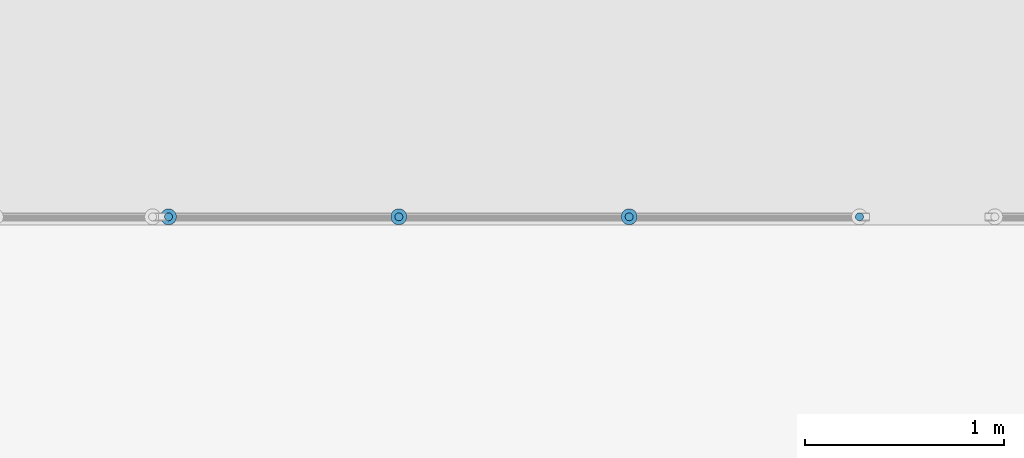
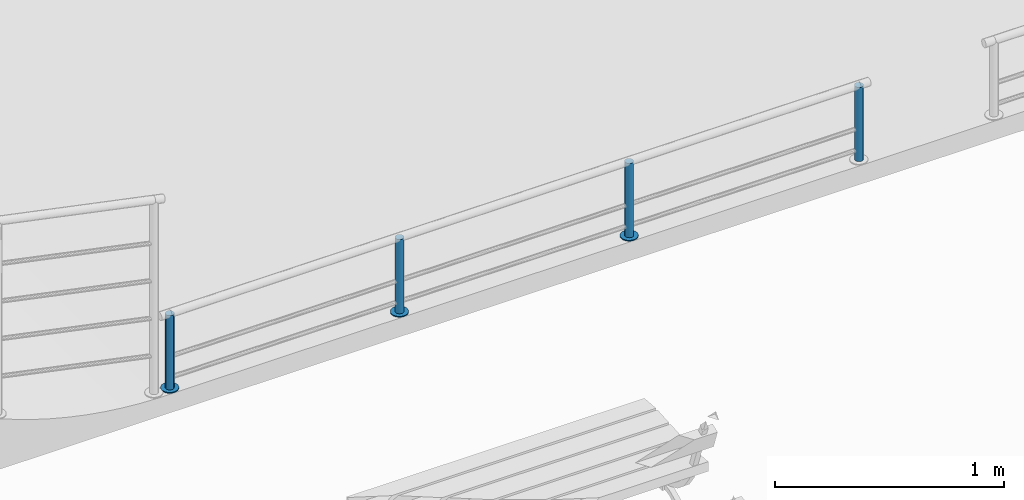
# One storey, part 94 of 237: 7 building element parts, 1 element without a shape of its own.
"""IFC2X3 building model written with IfcOpenShell, lengths in millimetres."""

from ifc_helpers import new_model, entity, si_unit, converted_unit, derived_unit, money_unit, direction, frame, origin_with_axes, place, context, subcontext, project, spatial, faceted_brep, material, type_object, element, aggregate, save


model = new_model("IFC2X3")

# Units and contexts
model_context = context("Model", 3, precision=0.01, world=origin_with_axes(), true_north=direction((0.0, 1.0)))
body_context = subcontext(model_context, "Body", "Model", "MODEL_VIEW")
ifc_project = project(units=[si_unit("LENGTHUNIT", "METRE", prefix="MILLI"), si_unit("AREAUNIT", "SQUARE_METRE"), si_unit("VOLUMEUNIT", "CUBIC_METRE"), converted_unit("PLANEANGLEUNIT", "DEGREE", entity("IfcPlaneAngleMeasure", 0.0174532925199), si_unit("PLANEANGLEUNIT", "RADIAN"), dimensions=[0, 0, 0, 0, 0, 0, 0]), money_unit("USD"), converted_unit("TIMEUNIT", "Year", entity("IfcTimeMeasure", 31556926.0), si_unit("TIMEUNIT", "SECOND"), dimensions=[0, 0, 1, 0, 0, 0, 0]), si_unit("MASSUNIT", "GRAM", prefix="KILO"), si_unit("THERMODYNAMICTEMPERATUREUNIT", "DEGREE_CELSIUS"), si_unit("LUMINOUSINTENSITYUNIT", "LUMEN"), si_unit("ENERGYUNIT", "JOULE", prefix="MEGA"), derived_unit("THERMALCONDUCTANCEUNIT", [(si_unit("POWERUNIT", "WATT"), 1), (si_unit("LENGTHUNIT", "METRE"), -1), (si_unit("THERMODYNAMICTEMPERATUREUNIT", "KELVIN"), -1)]), derived_unit("SPECIFICHEATCAPACITYUNIT", [(si_unit("ENERGYUNIT", "JOULE"), 1), (si_unit("MASSUNIT", "GRAM", prefix="KILO"), -1), (si_unit("THERMODYNAMICTEMPERATUREUNIT", "KELVIN"), -1)]), derived_unit("MASSDENSITYUNIT", [(si_unit("MASSUNIT", "GRAM", prefix="KILO"), 1), (si_unit("VOLUMEUNIT", "CUBIC_METRE"), -1)])], contexts=[model_context])

# Site, building, storey
site_placement = place(None, origin_with_axes())
site = spatial("IfcSite", under=ifc_project, at=site_placement, Name="Local", CompositionType="ELEMENT")
building_placement = place(site_placement, origin_with_axes())
building = spatial("IfcBuilding", under=site, at=building_placement, Name="Construção", CompositionType="ELEMENT")
storey_placement = place(building_placement, origin_with_axes())
storey = spatial("IfcBuildingStorey", under=building, at=storey_placement, Name="Pavimento Térreo", CompositionType="ELEMENT", Elevation=0.0)

# Railing, building element parts
railing_type = type_object("IfcRailingType", Name="Tipo de Guarda-Corpo", PredefinedType="NOTDEFINED")
railing_placement = place(storey_placement, frame((53912.4440926, 28006.4497128, -1887.10818411), z_axis=(0.0, 0.0, 1.0), x_axis=(1.0, 0.0, 0.0)))
railing = element("IfcRailing", 1, at=railing_placement, inside=storey, type_object=railing_type, Name="Guarda-Corpo - 002", PredefinedType="NOTDEFINED")
ifc_material_1 = material(Name="Aço - Inoxidável")
building_element_part_1_placement = place(railing_placement, origin_with_axes())
building_element_part_1 = element("IfcBuildingElementPart", 2, at=building_element_part_1_placement, material=ifc_material_1, Name="Aço - Inoxidável", context=body_context, shape_type="Brep", body=[
    faceted_brep([(36.5270364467, 58.7903860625, 635.0), (40.0, 58.4865411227, 635.0), (40.0, 58.4865411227, 1030.0), (36.5270364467, 58.7903860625, 1030.0), (43.4729635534, 58.7903860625, 635.0), (33.1595971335, 59.692688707, 635.0), (30.0, 61.166033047, 635.0), (27.1442478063, 63.1656522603, 635.0), (24.6791111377, 65.630788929, 635.0), (22.6794919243, 68.4865411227, 635.0), (21.2061475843, 71.6461382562, 635.0), (20.3038449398, 75.0135775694, 635.0), (20.0, 78.4865411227, 635.0), (20.3038449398, 81.9595046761, 635.0), (21.2061475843, 85.3269439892, 635.0), (22.6794919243, 88.4865411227, 635.0), (24.6791111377, 91.3422933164, 635.0), (27.1442478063, 93.8074299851, 635.0), (30.0, 95.8070491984, 635.0), (33.1595971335, 97.2803935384, 635.0), (36.5270364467, 98.182696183, 635.0), (40.0, 98.4865411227, 635.0), (43.4729635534, 98.182696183, 635.0), (46.8404028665, 97.2803935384, 635.0), (50.0, 95.8070491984, 635.0), (52.8557521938, 93.8074299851, 635.0), (55.3208888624, 91.3422933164, 635.0), (57.3205080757, 88.4865411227, 635.0), (58.7938524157, 85.3269439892, 635.0), (59.6961550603, 81.9595046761, 635.0), (60.0, 78.4865411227, 635.0), (59.6961550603, 75.0135775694, 635.0), (58.7938524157, 71.6461382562, 635.0), (57.3205080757, 68.4865411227, 635.0), (55.3208888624, 65.630788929, 635.0), (52.8557521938, 63.1656522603, 635.0), (50.0, 61.166033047, 635.0), (46.8404028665, 59.692688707, 635.0), (43.4729635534, 58.7903860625, 1030.0), (20.3038449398, 81.9595046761, 1030.0), (20.0, 78.4865411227, 1030.0), (20.3038449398, 75.0135775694, 1030.0), (21.2061475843, 71.6461382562, 1030.0), (22.6794919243, 68.4865411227, 1030.0), (24.6791111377, 65.630788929, 1030.0), (27.1442478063, 63.1656522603, 1030.0), (30.0, 61.166033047, 1030.0), (33.1595971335, 59.692688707, 1030.0), (46.8404028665, 59.692688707, 1030.0), (50.0, 61.166033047, 1030.0), (52.8557521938, 63.1656522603, 1030.0), (55.3208888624, 65.630788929, 1030.0), (57.3205080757, 68.4865411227, 1030.0), (58.7938524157, 71.6461382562, 1030.0), (59.6961550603, 75.0135775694, 1030.0), (60.0, 78.4865411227, 1030.0), (59.6961550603, 81.9595046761, 1030.0), (58.7938524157, 85.3269439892, 1030.0), (57.3205080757, 88.4865411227, 1030.0), (55.3208888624, 91.3422933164, 1030.0), (52.8557521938, 93.8074299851, 1030.0), (50.0, 95.8070491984, 1030.0), (46.8404028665, 97.2803935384, 1030.0), (43.4729635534, 98.182696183, 1030.0), (40.0, 98.4865411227, 1030.0), (36.5270364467, 98.182696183, 1030.0), (33.1595971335, 97.2803935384, 1030.0), (30.0, 95.8070491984, 1030.0), (27.1442478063, 93.8074299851, 1030.0), (24.6791111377, 91.3422933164, 1030.0), (22.6794919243, 88.4865411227, 1030.0), (21.2061475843, 85.3269439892, 1030.0)], [[[0, 1, 2, 3]], [[4, 1, 0, 5, 6, 7, 8, 9, 10, 11, 12, 13, 14, 15, 16, 17, 18, 19, 20, 21, 22, 23, 24, 25, 26, 27, 28, 29, 30, 31, 32, 33, 34, 35, 36, 37]], [[1, 4, 38, 2]], [[39, 40, 41, 42, 43, 44, 45, 46, 47, 3, 2, 38, 48, 49, 50, 51, 52, 53, 54, 55, 56, 57, 58, 59, 60, 61, 62, 63, 64, 65, 66, 67, 68, 69, 70, 71]], [[5, 0, 3, 47]], [[6, 5, 47, 46]], [[7, 6, 46, 45]], [[8, 7, 45, 44]], [[9, 8, 44, 43]], [[10, 9, 43, 42]], [[11, 10, 42, 41]], [[12, 11, 41, 40]], [[13, 12, 40, 39]], [[14, 13, 39, 71]], [[15, 14, 71, 70]], [[16, 15, 70, 69]], [[17, 16, 69, 68]], [[18, 17, 68, 67]], [[19, 18, 67, 66]], [[20, 19, 66, 65]], [[21, 20, 65, 64]], [[22, 21, 64, 63]], [[23, 22, 63, 62]], [[24, 23, 62, 61]], [[25, 24, 61, 60]], [[26, 25, 60, 59]], [[27, 26, 59, 58]], [[28, 27, 58, 57]], [[29, 28, 57, 56]], [[30, 29, 56, 55]], [[31, 30, 55, 54]], [[32, 31, 54, 53]], [[33, 32, 53, 52]], [[34, 33, 52, 51]], [[35, 34, 51, 50]], [[36, 35, 50, 49]], [[37, 36, 49, 48]], [[4, 37, 48, 38]]]),
])
ifc_material_2 = material(Name="Alumínio")
building_element_part_2_placement = place(railing_placement, origin_with_axes())
building_element_part_2 = element("IfcBuildingElementPart", 3, at=building_element_part_2_placement, material=ifc_material_2, Name="Alumínio", context=body_context, shape_type="Brep", body=[
    faceted_brep([(80.0, 78.4865411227, 630.0), (79.3923101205, 85.4324682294, 630.0), (79.3923101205, 85.4324682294, 635.0), (80.0, 78.4865411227, 635.0), (79.3923101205, 71.540614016, 630.0), (77.5877048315, 64.8057353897, 630.0), (74.6410161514, 58.4865411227, 630.0), (70.6417777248, 52.7750367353, 630.0), (65.7115043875, 47.844763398, 630.0), (60.0, 43.8455249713, 630.0), (53.6808057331, 40.8988362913, 630.0), (46.9459271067, 39.0942310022, 630.0), (40.0, 38.4865411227, 630.0), (33.0540728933, 39.0942310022, 630.0), (26.319194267, 40.8988362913, 630.0), (20.0, 43.8455249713, 630.0), (14.2884956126, 47.844763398, 630.0), (9.35822227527, 52.7750367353, 630.0), (5.35898384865, 58.4865411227, 630.0), (2.41229516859, 64.8057353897, 630.0), (0.607689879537, 71.540614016, 630.0), (0.0, 78.4865411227, 630.0), (0.607689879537, 85.4324682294, 630.0), (2.41229516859, 92.1673468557, 630.0), (5.35898384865, 98.4865411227, 630.0), (9.35822227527, 104.19804551, 630.0), (14.2884956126, 109.128318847, 630.0), (20.0, 113.127557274, 630.0), (26.319194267, 116.074245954, 630.0), (33.0540728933, 117.878851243, 630.0), (40.0, 118.486541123, 630.0), (46.9459271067, 117.878851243, 630.0), (53.6808057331, 116.074245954, 630.0), (60.0, 113.127557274, 630.0), (65.7115043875, 109.128318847, 630.0), (70.6417777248, 104.19804551, 630.0), (74.6410161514, 98.4865411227, 630.0), (77.5877048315, 92.1673468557, 630.0), (77.5877048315, 92.1673468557, 635.0), (74.6410161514, 98.4865411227, 635.0), (70.6417777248, 104.19804551, 635.0), (65.7115043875, 109.128318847, 635.0), (60.0, 113.127557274, 635.0), (53.6808057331, 116.074245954, 635.0), (46.9459271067, 117.878851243, 635.0), (40.0, 118.486541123, 635.0), (33.0540728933, 117.878851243, 635.0), (26.319194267, 116.074245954, 635.0), (20.0, 113.127557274, 635.0), (14.2884956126, 109.128318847, 635.0), (9.35822227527, 104.19804551, 635.0), (5.35898384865, 98.4865411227, 635.0), (2.41229516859, 92.1673468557, 635.0), (0.607689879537, 85.4324682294, 635.0), (0.0, 78.4865411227, 635.0), (0.607689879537, 71.540614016, 635.0), (2.41229516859, 64.8057353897, 635.0), (5.35898384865, 58.4865411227, 635.0), (9.35822227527, 52.7750367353, 635.0), (14.2884956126, 47.844763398, 635.0), (20.0, 43.8455249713, 635.0), (26.319194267, 40.8988362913, 635.0), (33.0540728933, 39.0942310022, 635.0), (40.0, 38.4865411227, 635.0), (46.9459271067, 39.0942310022, 635.0), (53.6808057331, 40.8988362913, 635.0), (60.0, 43.8455249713, 635.0), (65.7115043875, 47.844763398, 635.0), (70.6417777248, 52.7750367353, 635.0), (74.6410161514, 58.4865411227, 635.0), (77.5877048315, 64.8057353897, 635.0), (79.3923101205, 71.540614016, 635.0)], [[[0, 1, 2, 3]], [[0, 4, 5, 6, 7, 8, 9, 10, 11, 12, 13, 14, 15, 16, 17, 18, 19, 20, 21, 22, 23, 24, 25, 26, 27, 28, 29, 30, 31, 32, 33, 34, 35, 36, 37, 1]], [[1, 37, 38, 2]], [[3, 2, 38, 39, 40, 41, 42, 43, 44, 45, 46, 47, 48, 49, 50, 51, 52, 53, 54, 55, 56, 57, 58, 59, 60, 61, 62, 63, 64, 65, 66, 67, 68, 69, 70, 71]], [[4, 0, 3, 71]], [[5, 4, 71, 70]], [[6, 5, 70, 69]], [[7, 6, 69, 68]], [[8, 7, 68, 67]], [[9, 8, 67, 66]], [[10, 9, 66, 65]], [[11, 10, 65, 64]], [[12, 11, 64, 63]], [[13, 12, 63, 62]], [[14, 13, 62, 61]], [[15, 14, 61, 60]], [[16, 15, 60, 59]], [[17, 16, 59, 58]], [[18, 17, 58, 57]], [[19, 18, 57, 56]], [[20, 19, 56, 55]], [[21, 20, 55, 54]], [[22, 21, 54, 53]], [[23, 22, 53, 52]], [[24, 23, 52, 51]], [[25, 24, 51, 50]], [[26, 25, 50, 49]], [[27, 26, 49, 48]], [[28, 27, 48, 47]], [[29, 28, 47, 46]], [[30, 29, 46, 45]], [[31, 30, 45, 44]], [[32, 31, 44, 43]], [[33, 32, 43, 42]], [[34, 33, 42, 41]], [[35, 34, 41, 40]], [[36, 35, 40, 39]], [[37, 36, 39, 38]]]),
])
building_element_part_3_placement = place(railing_placement, origin_with_axes())
building_element_part_3 = element("IfcBuildingElementPart", 4, at=building_element_part_3_placement, material=ifc_material_1, Name="Aço - Inoxidável", context=body_context, shape_type="Brep", body=[
    faceted_brep([(3506.52703645, 58.7903860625, 634.999988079), (3510.0, 58.4865411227, 634.999988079), (3510.0, 58.4865411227, 1029.99998808), (3506.52703645, 58.7903860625, 1029.99998808), (3513.47296355, 58.7903860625, 634.999988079), (3503.15959713, 59.692688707, 634.999988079), (3500.0, 61.166033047, 634.999988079), (3497.14424781, 63.1656522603, 634.999988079), (3494.67911114, 65.630788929, 634.999988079), (3492.67949192, 68.4865411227, 634.999988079), (3491.20614758, 71.6461382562, 634.999988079), (3490.30384494, 75.0135775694, 634.999988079), (3490.0, 78.4865411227, 634.999988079), (3490.30384494, 81.9595046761, 634.999988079), (3491.20614758, 85.3269439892, 634.999988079), (3492.67949192, 88.4865411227, 634.999988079), (3494.67911114, 91.3422933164, 634.999988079), (3497.14424781, 93.8074299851, 634.999988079), (3500.0, 95.8070491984, 634.999988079), (3503.15959713, 97.2803935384, 634.999988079), (3506.52703645, 98.182696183, 634.999988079), (3510.0, 98.4865411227, 634.999988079), (3513.47296355, 98.182696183, 634.999988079), (3516.84040287, 97.2803935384, 634.999988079), (3520.0, 95.8070491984, 634.999988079), (3522.85575219, 93.8074299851, 634.999988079), (3525.32088886, 91.3422933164, 634.999988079), (3527.32050808, 88.4865411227, 634.999988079), (3528.79385242, 85.3269439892, 634.999988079), (3529.69615506, 81.9595046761, 634.999988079), (3530.0, 78.4865411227, 634.999988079), (3529.69615506, 75.0135775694, 634.999988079), (3528.79385242, 71.6461382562, 634.999988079), (3527.32050808, 68.4865411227, 634.999988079), (3525.32088886, 65.630788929, 634.999988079), (3522.85575219, 63.1656522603, 634.999988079), (3520.0, 61.166033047, 634.999988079), (3516.84040287, 59.692688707, 634.999988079), (3513.47296355, 58.7903860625, 1029.99998808), (3490.30384494, 81.9595046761, 1029.99998808), (3490.0, 78.4865411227, 1029.99998808), (3490.30384494, 75.0135775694, 1029.99998808), (3491.20614758, 71.6461382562, 1029.99998808), (3492.67949192, 68.4865411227, 1029.99998808), (3494.67911114, 65.630788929, 1029.99998808), (3497.14424781, 63.1656522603, 1029.99998808), (3500.0, 61.166033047, 1029.99998808), (3503.15959713, 59.692688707, 1029.99998808), (3516.84040287, 59.692688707, 1029.99998808), (3520.0, 61.166033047, 1029.99998808), (3522.85575219, 63.1656522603, 1029.99998808), (3525.32088886, 65.630788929, 1029.99998808), (3527.32050808, 68.4865411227, 1029.99998808), (3528.79385242, 71.6461382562, 1029.99998808), (3529.69615506, 75.0135775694, 1029.99998808), (3530.0, 78.4865411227, 1029.99998808), (3529.69615506, 81.9595046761, 1029.99998808), (3528.79385242, 85.3269439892, 1029.99998808), (3527.32050808, 88.4865411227, 1029.99998808), (3525.32088886, 91.3422933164, 1029.99998808), (3522.85575219, 93.8074299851, 1029.99998808), (3520.0, 95.8070491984, 1029.99998808), (3516.84040287, 97.2803935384, 1029.99998808), (3513.47296355, 98.182696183, 1029.99998808), (3510.0, 98.4865411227, 1029.99998808), (3506.52703645, 98.182696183, 1029.99998808), (3503.15959713, 97.2803935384, 1029.99998808), (3500.0, 95.8070491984, 1029.99998808), (3497.14424781, 93.8074299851, 1029.99998808), (3494.67911114, 91.3422933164, 1029.99998808), (3492.67949192, 88.4865411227, 1029.99998808), (3491.20614758, 85.3269439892, 1029.99998808)], [[[0, 1, 2, 3]], [[4, 1, 0, 5, 6, 7, 8, 9, 10, 11, 12, 13, 14, 15, 16, 17, 18, 19, 20, 21, 22, 23, 24, 25, 26, 27, 28, 29, 30, 31, 32, 33, 34, 35, 36, 37]], [[1, 4, 38, 2]], [[39, 40, 41, 42, 43, 44, 45, 46, 47, 3, 2, 38, 48, 49, 50, 51, 52, 53, 54, 55, 56, 57, 58, 59, 60, 61, 62, 63, 64, 65, 66, 67, 68, 69, 70, 71]], [[5, 0, 3, 47]], [[6, 5, 47, 46]], [[7, 6, 46, 45]], [[8, 7, 45, 44]], [[9, 8, 44, 43]], [[10, 9, 43, 42]], [[11, 10, 42, 41]], [[12, 11, 41, 40]], [[13, 12, 40, 39]], [[14, 13, 39, 71]], [[15, 14, 71, 70]], [[16, 15, 70, 69]], [[17, 16, 69, 68]], [[18, 17, 68, 67]], [[19, 18, 67, 66]], [[20, 19, 66, 65]], [[21, 20, 65, 64]], [[22, 21, 64, 63]], [[23, 22, 63, 62]], [[24, 23, 62, 61]], [[25, 24, 61, 60]], [[26, 25, 60, 59]], [[27, 26, 59, 58]], [[28, 27, 58, 57]], [[29, 28, 57, 56]], [[30, 29, 56, 55]], [[31, 30, 55, 54]], [[32, 31, 54, 53]], [[33, 32, 53, 52]], [[34, 33, 52, 51]], [[35, 34, 51, 50]], [[36, 35, 50, 49]], [[37, 36, 49, 48]], [[4, 37, 48, 38]]]),
])
building_element_part_4_placement = place(railing_placement, origin_with_axes())
building_element_part_4 = element("IfcBuildingElementPart", 5, at=building_element_part_4_placement, material=ifc_material_1, Name="Aço - Inoxidável", context=body_context, shape_type="Brep", body=[
    faceted_brep([(1193.19370311, 58.7903860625, 635.0), (1196.66666667, 58.4865411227, 635.0), (1196.66666667, 58.4865411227, 1030.0), (1193.19370311, 58.7903860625, 1030.0), (1200.13963022, 58.7903860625, 635.0), (1189.8262638, 59.692688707, 635.0), (1186.66666667, 61.166033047, 635.0), (1183.81091447, 63.1656522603, 635.0), (1181.3457778, 65.630788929, 635.0), (1179.34615859, 68.4865411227, 635.0), (1177.87281425, 71.6461382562, 635.0), (1176.97051161, 75.0135775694, 635.0), (1176.66666667, 78.4865411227, 635.0), (1176.97051161, 81.9595046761, 635.0), (1177.87281425, 85.3269439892, 635.0), (1179.34615859, 88.4865411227, 635.0), (1181.3457778, 91.3422933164, 635.0), (1183.81091447, 93.8074299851, 635.0), (1186.66666667, 95.8070491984, 635.0), (1189.8262638, 97.2803935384, 635.0), (1193.19370311, 98.182696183, 635.0), (1196.66666667, 98.4865411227, 635.0), (1200.13963022, 98.182696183, 635.0), (1203.50706953, 97.2803935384, 635.0), (1206.66666667, 95.8070491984, 635.0), (1209.52241886, 93.8074299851, 635.0), (1211.98755553, 91.3422933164, 635.0), (1213.98717474, 88.4865411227, 635.0), (1215.46051908, 85.3269439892, 635.0), (1216.36282173, 81.9595046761, 635.0), (1216.66666667, 78.4865411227, 635.0), (1216.36282173, 75.0135775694, 635.0), (1215.46051908, 71.6461382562, 635.0), (1213.98717474, 68.4865411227, 635.0), (1211.98755553, 65.630788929, 635.0), (1209.52241886, 63.1656522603, 635.0), (1206.66666667, 61.166033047, 635.0), (1203.50706953, 59.692688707, 635.0), (1200.13963022, 58.7903860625, 1030.0), (1176.97051161, 81.9595046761, 1030.0), (1176.66666667, 78.4865411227, 1030.0), (1176.97051161, 75.0135775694, 1030.0), (1177.87281425, 71.6461382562, 1030.0), (1179.34615859, 68.4865411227, 1030.0), (1181.3457778, 65.630788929, 1030.0), (1183.81091447, 63.1656522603, 1030.0), (1186.66666667, 61.166033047, 1030.0), (1189.8262638, 59.692688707, 1030.0), (1203.50706953, 59.692688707, 1030.0), (1206.66666667, 61.166033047, 1030.0), (1209.52241886, 63.1656522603, 1030.0), (1211.98755553, 65.630788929, 1030.0), (1213.98717474, 68.4865411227, 1030.0), (1215.46051908, 71.6461382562, 1030.0), (1216.36282173, 75.0135775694, 1030.0), (1216.66666667, 78.4865411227, 1030.0), (1216.36282173, 81.9595046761, 1030.0), (1215.46051908, 85.3269439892, 1030.0), (1213.98717474, 88.4865411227, 1030.0), (1211.98755553, 91.3422933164, 1030.0), (1209.52241886, 93.8074299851, 1030.0), (1206.66666667, 95.8070491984, 1030.0), (1203.50706953, 97.2803935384, 1030.0), (1200.13963022, 98.182696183, 1030.0), (1196.66666667, 98.4865411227, 1030.0), (1193.19370311, 98.182696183, 1030.0), (1189.8262638, 97.2803935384, 1030.0), (1186.66666667, 95.8070491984, 1030.0), (1183.81091447, 93.8074299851, 1030.0), (1181.3457778, 91.3422933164, 1030.0), (1179.34615859, 88.4865411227, 1030.0), (1177.87281425, 85.3269439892, 1030.0)], [[[0, 1, 2, 3]], [[4, 1, 0, 5, 6, 7, 8, 9, 10, 11, 12, 13, 14, 15, 16, 17, 18, 19, 20, 21, 22, 23, 24, 25, 26, 27, 28, 29, 30, 31, 32, 33, 34, 35, 36, 37]], [[1, 4, 38, 2]], [[39, 40, 41, 42, 43, 44, 45, 46, 47, 3, 2, 38, 48, 49, 50, 51, 52, 53, 54, 55, 56, 57, 58, 59, 60, 61, 62, 63, 64, 65, 66, 67, 68, 69, 70, 71]], [[5, 0, 3, 47]], [[6, 5, 47, 46]], [[7, 6, 46, 45]], [[8, 7, 45, 44]], [[9, 8, 44, 43]], [[10, 9, 43, 42]], [[11, 10, 42, 41]], [[12, 11, 41, 40]], [[13, 12, 40, 39]], [[14, 13, 39, 71]], [[15, 14, 71, 70]], [[16, 15, 70, 69]], [[17, 16, 69, 68]], [[18, 17, 68, 67]], [[19, 18, 67, 66]], [[20, 19, 66, 65]], [[21, 20, 65, 64]], [[22, 21, 64, 63]], [[23, 22, 63, 62]], [[24, 23, 62, 61]], [[25, 24, 61, 60]], [[26, 25, 60, 59]], [[27, 26, 59, 58]], [[28, 27, 58, 57]], [[29, 28, 57, 56]], [[30, 29, 56, 55]], [[31, 30, 55, 54]], [[32, 31, 54, 53]], [[33, 32, 53, 52]], [[34, 33, 52, 51]], [[35, 34, 51, 50]], [[36, 35, 50, 49]], [[37, 36, 49, 48]], [[4, 37, 48, 38]]]),
])
building_element_part_5_placement = place(railing_placement, origin_with_axes())
building_element_part_5 = element("IfcBuildingElementPart", 6, at=building_element_part_5_placement, material=ifc_material_2, Name="Alumínio", context=body_context, shape_type="Brep", body=[
    faceted_brep([(1236.66666667, 78.4865411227, 630.0), (1236.05897679, 85.4324682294, 630.0), (1236.05897679, 85.4324682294, 635.0), (1236.66666667, 78.4865411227, 635.0), (1236.05897679, 71.540614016, 630.0), (1234.2543715, 64.8057353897, 630.0), (1231.30768282, 58.4865411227, 630.0), (1227.30844439, 52.7750367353, 630.0), (1222.37817105, 47.844763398, 630.0), (1216.66666667, 43.8455249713, 630.0), (1210.3474724, 40.8988362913, 630.0), (1203.61259377, 39.0942310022, 630.0), (1196.66666667, 38.4865411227, 630.0), (1189.72073956, 39.0942310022, 630.0), (1182.98586093, 40.8988362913, 630.0), (1176.66666667, 43.8455249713, 630.0), (1170.95516228, 47.844763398, 630.0), (1166.02488894, 52.7750367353, 630.0), (1162.02565052, 58.4865411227, 630.0), (1159.07896184, 64.8057353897, 630.0), (1157.27435655, 71.540614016, 630.0), (1156.66666667, 78.4865411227, 630.0), (1157.27435655, 85.4324682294, 630.0), (1159.07896184, 92.1673468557, 630.0), (1162.02565052, 98.4865411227, 630.0), (1166.02488894, 104.19804551, 630.0), (1170.95516228, 109.128318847, 630.0), (1176.66666667, 113.127557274, 630.0), (1182.98586093, 116.074245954, 630.0), (1189.72073956, 117.878851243, 630.0), (1196.66666667, 118.486541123, 630.0), (1203.61259377, 117.878851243, 630.0), (1210.3474724, 116.074245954, 630.0), (1216.66666667, 113.127557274, 630.0), (1222.37817105, 109.128318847, 630.0), (1227.30844439, 104.19804551, 630.0), (1231.30768282, 98.4865411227, 630.0), (1234.2543715, 92.1673468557, 630.0), (1234.2543715, 92.1673468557, 635.0), (1231.30768282, 98.4865411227, 635.0), (1227.30844439, 104.19804551, 635.0), (1222.37817105, 109.128318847, 635.0), (1216.66666667, 113.127557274, 635.0), (1210.3474724, 116.074245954, 635.0), (1203.61259377, 117.878851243, 635.0), (1196.66666667, 118.486541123, 635.0), (1189.72073956, 117.878851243, 635.0), (1182.98586093, 116.074245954, 635.0), (1176.66666667, 113.127557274, 635.0), (1170.95516228, 109.128318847, 635.0), (1166.02488894, 104.19804551, 635.0), (1162.02565052, 98.4865411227, 635.0), (1159.07896184, 92.1673468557, 635.0), (1157.27435655, 85.4324682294, 635.0), (1156.66666667, 78.4865411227, 635.0), (1157.27435655, 71.540614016, 635.0), (1159.07896184, 64.8057353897, 635.0), (1162.02565052, 58.4865411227, 635.0), (1166.02488894, 52.7750367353, 635.0), (1170.95516228, 47.844763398, 635.0), (1176.66666667, 43.8455249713, 635.0), (1182.98586093, 40.8988362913, 635.0), (1189.72073956, 39.0942310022, 635.0), (1196.66666667, 38.4865411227, 635.0), (1203.61259377, 39.0942310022, 635.0), (1210.3474724, 40.8988362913, 635.0), (1216.66666667, 43.8455249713, 635.0), (1222.37817105, 47.844763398, 635.0), (1227.30844439, 52.7750367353, 635.0), (1231.30768282, 58.4865411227, 635.0), (1234.2543715, 64.8057353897, 635.0), (1236.05897679, 71.540614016, 635.0)], [[[0, 1, 2, 3]], [[0, 4, 5, 6, 7, 8, 9, 10, 11, 12, 13, 14, 15, 16, 17, 18, 19, 20, 21, 22, 23, 24, 25, 26, 27, 28, 29, 30, 31, 32, 33, 34, 35, 36, 37, 1]], [[1, 37, 38, 2]], [[3, 2, 38, 39, 40, 41, 42, 43, 44, 45, 46, 47, 48, 49, 50, 51, 52, 53, 54, 55, 56, 57, 58, 59, 60, 61, 62, 63, 64, 65, 66, 67, 68, 69, 70, 71]], [[4, 0, 3, 71]], [[5, 4, 71, 70]], [[6, 5, 70, 69]], [[7, 6, 69, 68]], [[8, 7, 68, 67]], [[9, 8, 67, 66]], [[10, 9, 66, 65]], [[11, 10, 65, 64]], [[12, 11, 64, 63]], [[13, 12, 63, 62]], [[14, 13, 62, 61]], [[15, 14, 61, 60]], [[16, 15, 60, 59]], [[17, 16, 59, 58]], [[18, 17, 58, 57]], [[19, 18, 57, 56]], [[20, 19, 56, 55]], [[21, 20, 55, 54]], [[22, 21, 54, 53]], [[23, 22, 53, 52]], [[24, 23, 52, 51]], [[25, 24, 51, 50]], [[26, 25, 50, 49]], [[27, 26, 49, 48]], [[28, 27, 48, 47]], [[29, 28, 47, 46]], [[30, 29, 46, 45]], [[31, 30, 45, 44]], [[32, 31, 44, 43]], [[33, 32, 43, 42]], [[34, 33, 42, 41]], [[35, 34, 41, 40]], [[36, 35, 40, 39]], [[37, 36, 39, 38]]]),
])
building_element_part_6_placement = place(railing_placement, origin_with_axes())
building_element_part_6 = element("IfcBuildingElementPart", 7, at=building_element_part_6_placement, material=ifc_material_1, Name="Aço - Inoxidável", context=body_context, shape_type="Brep", body=[
    faceted_brep([(2349.86036978, 58.7903860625, 635.0), (2353.33333333, 58.4865411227, 635.0), (2353.33333333, 58.4865411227, 1030.0), (2349.86036978, 58.7903860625, 1030.0), (2356.80629689, 58.7903860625, 635.0), (2346.49293047, 59.692688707, 635.0), (2343.33333333, 61.166033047, 635.0), (2340.47758114, 63.1656522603, 635.0), (2338.01244447, 65.630788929, 635.0), (2336.01282526, 68.4865411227, 635.0), (2334.53948092, 71.6461382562, 635.0), (2333.63717827, 75.0135775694, 635.0), (2333.33333333, 78.4865411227, 635.0), (2333.63717827, 81.9595046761, 635.0), (2334.53948092, 85.3269439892, 635.0), (2336.01282526, 88.4865411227, 635.0), (2338.01244447, 91.3422933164, 635.0), (2340.47758114, 93.8074299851, 635.0), (2343.33333333, 95.8070491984, 635.0), (2346.49293047, 97.2803935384, 635.0), (2349.86036978, 98.182696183, 635.0), (2353.33333333, 98.4865411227, 635.0), (2356.80629689, 98.182696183, 635.0), (2360.1737362, 97.2803935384, 635.0), (2363.33333333, 95.8070491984, 635.0), (2366.18908553, 93.8074299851, 635.0), (2368.6542222, 91.3422933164, 635.0), (2370.65384141, 88.4865411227, 635.0), (2372.12718575, 85.3269439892, 635.0), (2373.02948839, 81.9595046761, 635.0), (2373.33333333, 78.4865411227, 635.0), (2373.02948839, 75.0135775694, 635.0), (2372.12718575, 71.6461382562, 635.0), (2370.65384141, 68.4865411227, 635.0), (2368.6542222, 65.630788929, 635.0), (2366.18908553, 63.1656522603, 635.0), (2363.33333333, 61.166033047, 635.0), (2360.1737362, 59.692688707, 635.0), (2356.80629689, 58.7903860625, 1030.0), (2333.63717827, 81.9595046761, 1030.0), (2333.33333333, 78.4865411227, 1030.0), (2333.63717827, 75.0135775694, 1030.0), (2334.53948092, 71.6461382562, 1030.0), (2336.01282526, 68.4865411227, 1030.0), (2338.01244447, 65.630788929, 1030.0), (2340.47758114, 63.1656522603, 1030.0), (2343.33333333, 61.166033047, 1030.0), (2346.49293047, 59.692688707, 1030.0), (2360.1737362, 59.692688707, 1030.0), (2363.33333333, 61.166033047, 1030.0), (2366.18908553, 63.1656522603, 1030.0), (2368.6542222, 65.630788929, 1030.0), (2370.65384141, 68.4865411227, 1030.0), (2372.12718575, 71.6461382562, 1030.0), (2373.02948839, 75.0135775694, 1030.0), (2373.33333333, 78.4865411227, 1030.0), (2373.02948839, 81.9595046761, 1030.0), (2372.12718575, 85.3269439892, 1030.0), (2370.65384141, 88.4865411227, 1030.0), (2368.6542222, 91.3422933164, 1030.0), (2366.18908553, 93.8074299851, 1030.0), (2363.33333333, 95.8070491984, 1030.0), (2360.1737362, 97.2803935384, 1030.0), (2356.80629689, 98.182696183, 1030.0), (2353.33333333, 98.4865411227, 1030.0), (2349.86036978, 98.182696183, 1030.0), (2346.49293047, 97.2803935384, 1030.0), (2343.33333333, 95.8070491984, 1030.0), (2340.47758114, 93.8074299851, 1030.0), (2338.01244447, 91.3422933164, 1030.0), (2336.01282526, 88.4865411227, 1030.0), (2334.53948092, 85.3269439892, 1030.0)], [[[0, 1, 2, 3]], [[4, 1, 0, 5, 6, 7, 8, 9, 10, 11, 12, 13, 14, 15, 16, 17, 18, 19, 20, 21, 22, 23, 24, 25, 26, 27, 28, 29, 30, 31, 32, 33, 34, 35, 36, 37]], [[1, 4, 38, 2]], [[39, 40, 41, 42, 43, 44, 45, 46, 47, 3, 2, 38, 48, 49, 50, 51, 52, 53, 54, 55, 56, 57, 58, 59, 60, 61, 62, 63, 64, 65, 66, 67, 68, 69, 70, 71]], [[5, 0, 3, 47]], [[6, 5, 47, 46]], [[7, 6, 46, 45]], [[8, 7, 45, 44]], [[9, 8, 44, 43]], [[10, 9, 43, 42]], [[11, 10, 42, 41]], [[12, 11, 41, 40]], [[13, 12, 40, 39]], [[14, 13, 39, 71]], [[15, 14, 71, 70]], [[16, 15, 70, 69]], [[17, 16, 69, 68]], [[18, 17, 68, 67]], [[19, 18, 67, 66]], [[20, 19, 66, 65]], [[21, 20, 65, 64]], [[22, 21, 64, 63]], [[23, 22, 63, 62]], [[24, 23, 62, 61]], [[25, 24, 61, 60]], [[26, 25, 60, 59]], [[27, 26, 59, 58]], [[28, 27, 58, 57]], [[29, 28, 57, 56]], [[30, 29, 56, 55]], [[31, 30, 55, 54]], [[32, 31, 54, 53]], [[33, 32, 53, 52]], [[34, 33, 52, 51]], [[35, 34, 51, 50]], [[36, 35, 50, 49]], [[37, 36, 49, 48]], [[4, 37, 48, 38]]]),
])
building_element_part_7_placement = place(railing_placement, origin_with_axes())
building_element_part_7 = element("IfcBuildingElementPart", 8, at=building_element_part_7_placement, material=ifc_material_2, Name="Alumínio", context=body_context, shape_type="Brep", body=[
    faceted_brep([(2393.33333333, 78.4865411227, 630.0), (2392.72564345, 85.4324682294, 630.0), (2392.72564345, 85.4324682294, 635.0), (2393.33333333, 78.4865411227, 635.0), (2392.72564345, 71.540614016, 630.0), (2390.92103816, 64.8057353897, 630.0), (2387.97434948, 58.4865411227, 630.0), (2383.97511106, 52.7750367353, 630.0), (2379.04483772, 47.844763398, 630.0), (2373.33333333, 43.8455249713, 630.0), (2367.01413907, 40.8988362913, 630.0), (2360.27926044, 39.0942310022, 630.0), (2353.33333333, 38.4865411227, 630.0), (2346.38740623, 39.0942310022, 630.0), (2339.6525276, 40.8988362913, 630.0), (2333.33333333, 43.8455249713, 630.0), (2327.62182895, 47.844763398, 630.0), (2322.69155561, 52.7750367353, 630.0), (2318.69231718, 58.4865411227, 630.0), (2315.7456285, 64.8057353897, 630.0), (2313.94102321, 71.540614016, 630.0), (2313.33333333, 78.4865411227, 630.0), (2313.94102321, 85.4324682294, 630.0), (2315.7456285, 92.1673468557, 630.0), (2318.69231718, 98.4865411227, 630.0), (2322.69155561, 104.19804551, 630.0), (2327.62182895, 109.128318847, 630.0), (2333.33333333, 113.127557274, 630.0), (2339.6525276, 116.074245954, 630.0), (2346.38740623, 117.878851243, 630.0), (2353.33333333, 118.486541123, 630.0), (2360.27926044, 117.878851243, 630.0), (2367.01413907, 116.074245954, 630.0), (2373.33333333, 113.127557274, 630.0), (2379.04483772, 109.128318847, 630.0), (2383.97511106, 104.19804551, 630.0), (2387.97434948, 98.4865411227, 630.0), (2390.92103816, 92.1673468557, 630.0), (2390.92103816, 92.1673468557, 635.0), (2387.97434948, 98.4865411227, 635.0), (2383.97511106, 104.19804551, 635.0), (2379.04483772, 109.128318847, 635.0), (2373.33333333, 113.127557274, 635.0), (2367.01413907, 116.074245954, 635.0), (2360.27926044, 117.878851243, 635.0), (2353.33333333, 118.486541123, 635.0), (2346.38740623, 117.878851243, 635.0), (2339.6525276, 116.074245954, 635.0), (2333.33333333, 113.127557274, 635.0), (2327.62182895, 109.128318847, 635.0), (2322.69155561, 104.19804551, 635.0), (2318.69231718, 98.4865411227, 635.0), (2315.7456285, 92.1673468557, 635.0), (2313.94102321, 85.4324682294, 635.0), (2313.33333333, 78.4865411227, 635.0), (2313.94102321, 71.540614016, 635.0), (2315.7456285, 64.8057353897, 635.0), (2318.69231718, 58.4865411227, 635.0), (2322.69155561, 52.7750367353, 635.0), (2327.62182895, 47.844763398, 635.0), (2333.33333333, 43.8455249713, 635.0), (2339.6525276, 40.8988362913, 635.0), (2346.38740623, 39.0942310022, 635.0), (2353.33333333, 38.4865411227, 635.0), (2360.27926044, 39.0942310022, 635.0), (2367.01413907, 40.8988362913, 635.0), (2373.33333333, 43.8455249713, 635.0), (2379.04483772, 47.844763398, 635.0), (2383.97511106, 52.7750367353, 635.0), (2387.97434948, 58.4865411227, 635.0), (2390.92103816, 64.8057353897, 635.0), (2392.72564345, 71.540614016, 635.0)], [[[0, 1, 2, 3]], [[0, 4, 5, 6, 7, 8, 9, 10, 11, 12, 13, 14, 15, 16, 17, 18, 19, 20, 21, 22, 23, 24, 25, 26, 27, 28, 29, 30, 31, 32, 33, 34, 35, 36, 37, 1]], [[1, 37, 38, 2]], [[3, 2, 38, 39, 40, 41, 42, 43, 44, 45, 46, 47, 48, 49, 50, 51, 52, 53, 54, 55, 56, 57, 58, 59, 60, 61, 62, 63, 64, 65, 66, 67, 68, 69, 70, 71]], [[4, 0, 3, 71]], [[5, 4, 71, 70]], [[6, 5, 70, 69]], [[7, 6, 69, 68]], [[8, 7, 68, 67]], [[9, 8, 67, 66]], [[10, 9, 66, 65]], [[11, 10, 65, 64]], [[12, 11, 64, 63]], [[13, 12, 63, 62]], [[14, 13, 62, 61]], [[15, 14, 61, 60]], [[16, 15, 60, 59]], [[17, 16, 59, 58]], [[18, 17, 58, 57]], [[19, 18, 57, 56]], [[20, 19, 56, 55]], [[21, 20, 55, 54]], [[22, 21, 54, 53]], [[23, 22, 53, 52]], [[24, 23, 52, 51]], [[25, 24, 51, 50]], [[26, 25, 50, 49]], [[27, 26, 49, 48]], [[28, 27, 48, 47]], [[29, 28, 47, 46]], [[30, 29, 46, 45]], [[31, 30, 45, 44]], [[32, 31, 44, 43]], [[33, 32, 43, 42]], [[34, 33, 42, 41]], [[35, 34, 41, 40]], [[36, 35, 40, 39]], [[37, 36, 39, 38]]]),
])
aggregate(railing, [building_element_part_1, building_element_part_2, building_element_part_3, building_element_part_4, building_element_part_5, building_element_part_6, building_element_part_7])

save(model, "model.ifc")
